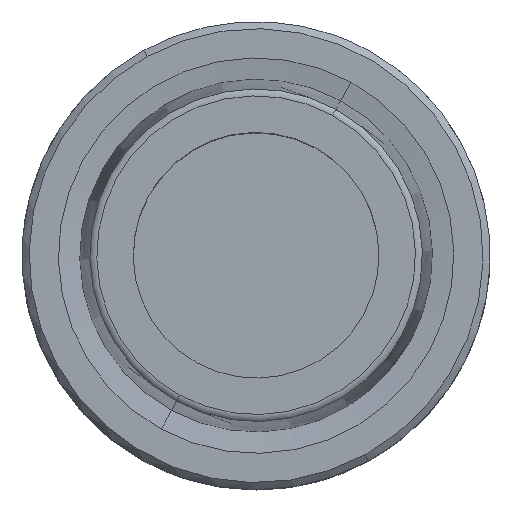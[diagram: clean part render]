
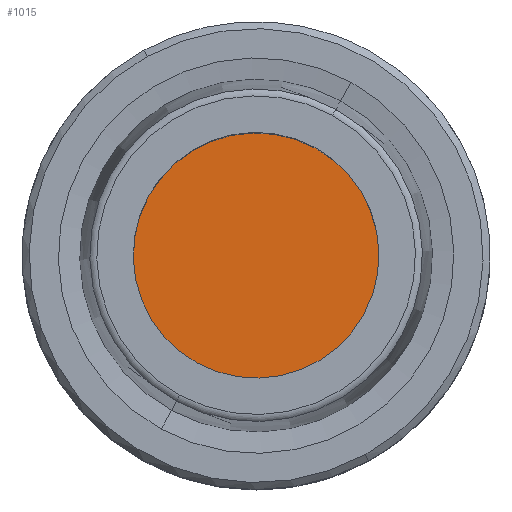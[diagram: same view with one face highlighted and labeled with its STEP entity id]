
A CAD part, top view. The second image highlights one B-rep face of the part: STEP entity #1015.
In plain terms, the highlighted planar face has unit normal (0, 0, 1).
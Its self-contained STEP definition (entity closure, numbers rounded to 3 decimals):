
#951=AXIS2_PLACEMENT_3D('Circle Axis2P3D',#949,#950,$) ;
#968=AXIS2_PLACEMENT_3D('Circle Axis2P3D',#966,#967,$) ;
#1009=AXIS2_PLACEMENT_3D('Plane Axis2P3D',#1006,#1007,#1008) ;
#939=CARTESIAN_POINT('Vertex',(5.034,9.215,-8.)) ;
#946=CARTESIAN_POINT('Vertex',(-5.034,-9.215,-8.)) ;
#949=CARTESIAN_POINT('Axis2P3D Location',(0.,0.,-8.)) ;
#966=CARTESIAN_POINT('Axis2P3D Location',(0.,0.,-8.)) ;
#1006=CARTESIAN_POINT('Axis2P3D Location',(0.,-9.9,-8.)) ;
#950=DIRECTION('Axis2P3D Direction',(0.,0.,-1.)) ;
#967=DIRECTION('Axis2P3D Direction',(0.,0.,-1.)) ;
#1007=DIRECTION('Axis2P3D Direction',(0.,0.,-1.)) ;
#1008=DIRECTION('Axis2P3D XDirection',(-1.,0.,0.)) ;
#1012=ORIENTED_EDGE('',*,*,#970,.T.) ;
#1013=ORIENTED_EDGE('',*,*,#953,.T.) ;
#1015=ADVANCED_FACE('NOCUT',(#1014),#1010,.F.) ;
#952=CIRCLE('generated circle',#951,10.5) ;
#969=CIRCLE('generated circle',#968,10.5) ;
#953=EDGE_CURVE('',#940,#947,#952,.F.) ;
#970=EDGE_CURVE('',#947,#940,#969,.F.) ;
#1011=EDGE_LOOP('',(#1012,#1013)) ;
#1014=FACE_OUTER_BOUND('',#1011,.T.) ;
#1010=PLANE('',#1009) ;
#940=VERTEX_POINT('',#939) ;
#947=VERTEX_POINT('',#946) ;
